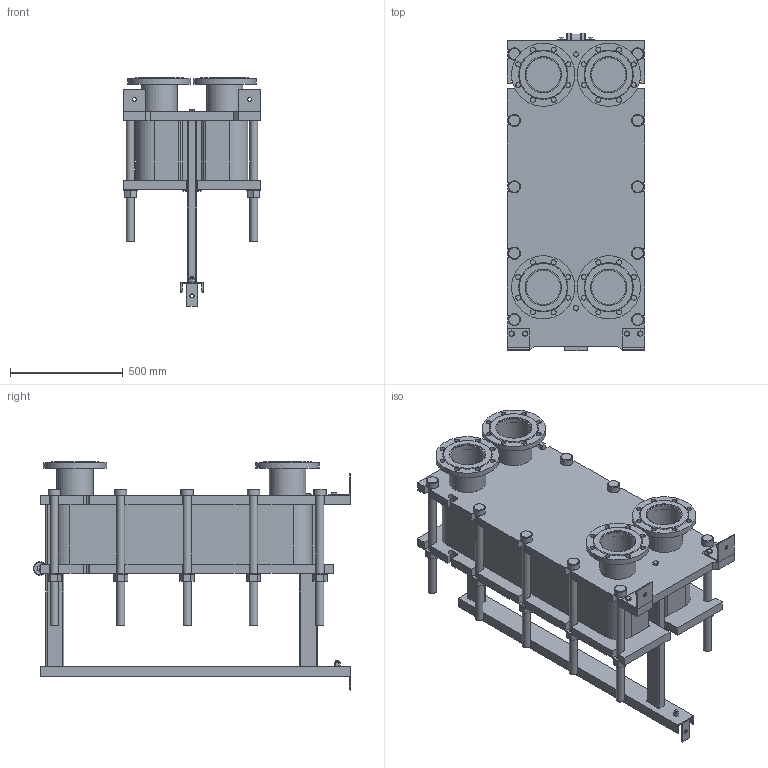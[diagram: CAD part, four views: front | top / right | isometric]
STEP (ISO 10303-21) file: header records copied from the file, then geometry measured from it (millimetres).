
FILE_DESCRIPTION(/* description */ (''),/* implementation_level */ '2;1');
FILE_NAME(/* name */ 'C:\Users\zhuro\Desktop\ENCO\TO\ЭН-041\ЭН-0,5-041-76-1.stp',/* time_stamp */ '2022-06-06T10:55:49+03:00',/* author */ ('zhuro'),/* organization */ (''),/* preprocessor_version */ 'ST-DEVELOPER v18.1',/* originating_system */ 'Autodesk Inventor 2022',/* authorisation */ '');
FILE_SCHEMA (('AUTOMOTIVE_DESIGN { 1 0 10303 214 3 1 1 }'));
Length unit declared in the file: millimetre
Products named in the file (1): ЭН-0,5-041-76-1
Bounding box: 610 x 1406.5 x 1010 mm (x, y, z)
Volume: 226257665 mm3; surface area: 8495330.8 mm2
Topology: 52 solids, 52 shells, 711 faces, 1696 edges, 1094 vertices
Faces by surface type: plane 487, cylinder 177, cone 41, torus 6
Full cylindrical faces by diameter (mm): 8 x4, 10 x2, 16 x8, 18 x3, 22 x32, 36 x24, 50 x1, 54 x10, 60 x12, 151 x4, 161 x8, 280 x4
Entity records: 22667 total; most frequent: CARTESIAN_POINT 5230, DIRECTION 3644, ORIENTED_EDGE 3392, EDGE_CURVE 1696, AXIS2_PLACEMENT_3D 1272, LINE 1100, VECTOR 1100, VERTEX_POINT 1094
